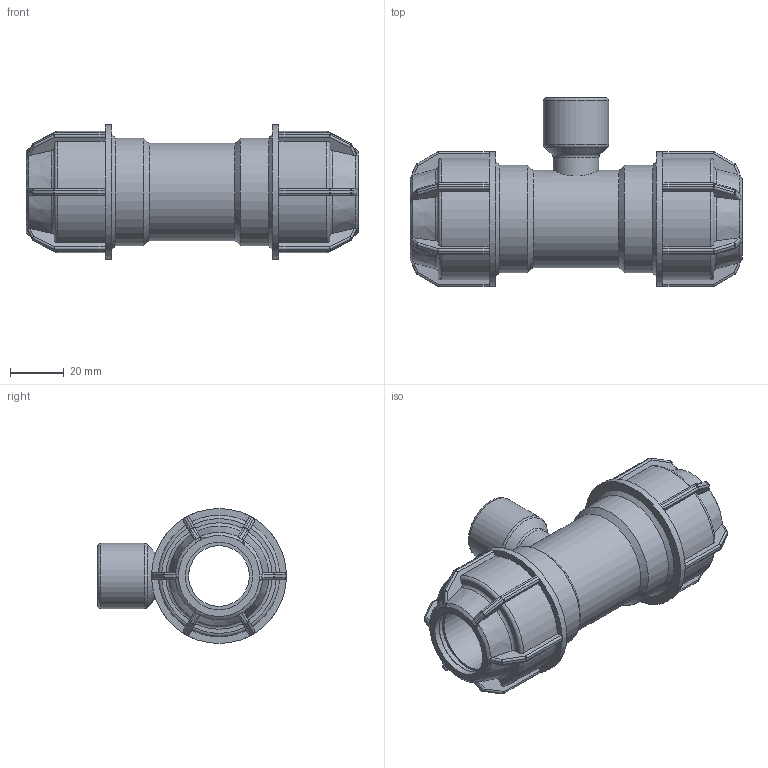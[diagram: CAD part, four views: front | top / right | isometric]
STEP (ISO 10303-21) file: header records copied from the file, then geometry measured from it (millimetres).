
FILE_DESCRIPTION(/* description */ ('PLASSON L.14 TEE FEMALE ADAPTOR (SILVER) 25 x 1/2" x 25'),/* implementation_level */ '2;1');
FILE_NAME(/* name */ 'C:\Dropbox\KIMPROJECTS-Inventor\99-16-3568-Processing\Silver Fittings\141400\141400025005.ipt.stp',/* time_stamp */ '2018-04-16T11:15:47+03:00',/* author */ ('KIM'),/* organization */ (''),/* preprocessor_version */ 'ST-DEVELOPER v15.6',/* originating_system */ 'Autodesk Inventor 2015',/* authorisation */ '');
FILE_SCHEMA (('AUTOMOTIVE_DESIGN { 1 0 10303 214 3 1 1 }'));
Length unit declared in the file: millimetre
Products named in the file (1): 141400025005
Bounding box: 123 x 70 x 50 mm (x, y, z)
Volume: 104659.9 mm3; surface area: 34411.9 mm2
Topology: 1 solids, 1 shells, 416 faces, 988 edges, 566 vertices
Faces by surface type: plane 196, cylinder 122, sphere 48, torus 31, cone 19
Full cylindrical faces by diameter (mm): 12.5 x1, 16.954 x1, 18.631 x1, 22.5 x1, 24.22 x1, 25 x4, 36 x1, 40 x2, 50 x2
Entity records: 11988 total; most frequent: CARTESIAN_POINT 3093, DIRECTION 1872, ORIENTED_EDGE 1822, EDGE_CURVE 911, AXIS2_PLACEMENT_3D 756, VERTEX_POINT 539, EDGE_LOOP 450, FACE_OUTER_BOUND 410
